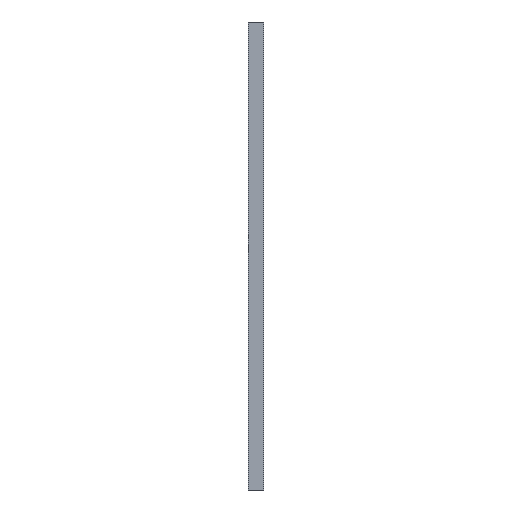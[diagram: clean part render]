
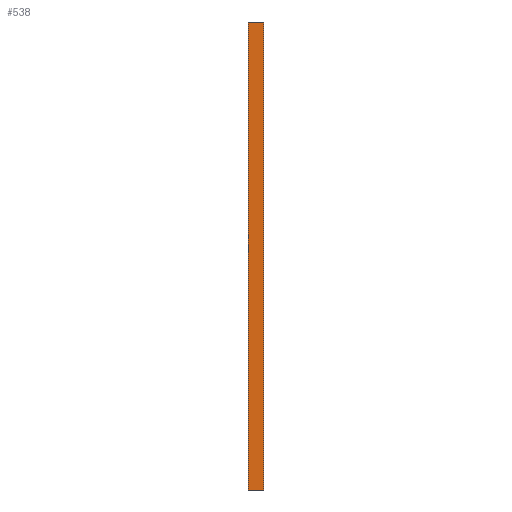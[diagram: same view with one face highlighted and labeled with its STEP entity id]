
A CAD part, front view. The second image highlights one B-rep face of the part: STEP entity #538.
In plain terms, the highlighted planar face has unit normal (0, -1, 0).
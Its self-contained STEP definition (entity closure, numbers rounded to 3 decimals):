
#21 = EDGE_CURVE('',#22,#24,#26,.T.);
#22 = VERTEX_POINT('',#23);
#23 = CARTESIAN_POINT('',(-25.4,-42.,191.));
#24 = VERTEX_POINT('',#25);
#25 = CARTESIAN_POINT('',(-25.4,-42.,265.));
#26 = LINE('',#27,#28);
#27 = CARTESIAN_POINT('',(-25.4,-42.,191.));
#28 = VECTOR('',#29,1.);
#29 = DIRECTION('',(0.,0.,1.));
#538 = ADVANCED_FACE('',(#539),#564,.F.);
#539 = FACE_BOUND('',#540,.F.);
#540 = EDGE_LOOP('',(#541,#549,#550,#558));
#541 = ORIENTED_EDGE('',*,*,#542,.F.);
#542 = EDGE_CURVE('',#22,#543,#545,.T.);
#543 = VERTEX_POINT('',#544);
#544 = CARTESIAN_POINT('',(-23.,-42.,191.));
#545 = LINE('',#546,#547);
#546 = CARTESIAN_POINT('',(-25.4,-42.,191.));
#547 = VECTOR('',#548,1.);
#548 = DIRECTION('',(1.,0.,-0.));
#549 = ORIENTED_EDGE('',*,*,#21,.T.);
#550 = ORIENTED_EDGE('',*,*,#551,.T.);
#551 = EDGE_CURVE('',#24,#552,#554,.T.);
#552 = VERTEX_POINT('',#553);
#553 = CARTESIAN_POINT('',(-23.,-42.,265.));
#554 = LINE('',#555,#556);
#555 = CARTESIAN_POINT('',(-25.4,-42.,265.));
#556 = VECTOR('',#557,1.);
#557 = DIRECTION('',(1.,0.,-0.));
#558 = ORIENTED_EDGE('',*,*,#559,.F.);
#559 = EDGE_CURVE('',#543,#552,#560,.T.);
#560 = LINE('',#561,#562);
#561 = CARTESIAN_POINT('',(-23.,-42.,191.));
#562 = VECTOR('',#563,1.);
#563 = DIRECTION('',(0.,0.,1.));
#564 = PLANE('',#565);
#565 = AXIS2_PLACEMENT_3D('',#566,#567,#568);
#566 = CARTESIAN_POINT('',(-25.4,-42.,191.));
#567 = DIRECTION('',(-0.,1.,0.));
#568 = DIRECTION('',(0.,0.,1.));
